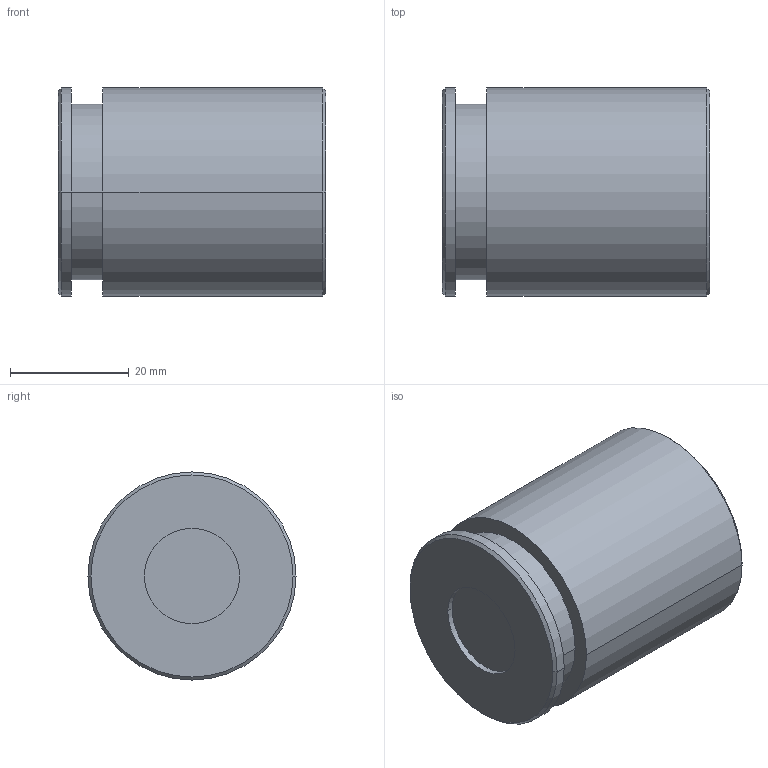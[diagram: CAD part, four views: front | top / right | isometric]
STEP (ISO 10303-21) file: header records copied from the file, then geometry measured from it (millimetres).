
FILE_DESCRIPTION((''),'2;1');
FILE_NAME('VJ3_16_100_02_226854','2021-06-02T',('l.soukupova'),(''),'PRO/ENGINEER BY PARAMETRIC TECHNOLOGY CORPORATION, 2015440','PRO/ENGINEER BY PARAMETRIC TECHNOLOGY CORPORATION, 2015440','');
FILE_SCHEMA(('AUTOMOTIVE_DESIGN { 1 0 10303 214 1 1 1 1 }'));
Length unit declared in the file: millimetre
Products named in the file (1): VJ3_16_100_02_226854
Bounding box: 45 x 35 x 35 mm (x, y, z)
Volume: 40633 mm3; surface area: 7472.6 mm2
Topology: 1 solids, 1 shells, 20 faces, 39 edges, 26 vertices
Faces by surface type: cylinder 10, plane 6, cone 4
Entity records: 719 total; most frequent: DIRECTION 105, CARTESIAN_POINT 86, ORIENTED_EDGE 76, AXIS2_PLACEMENT_3D 45, PRESENTATION_STYLE_ASSIGNMENT 41, STYLED_ITEM 41, CURVE_STYLE 40, EDGE_CURVE 38
